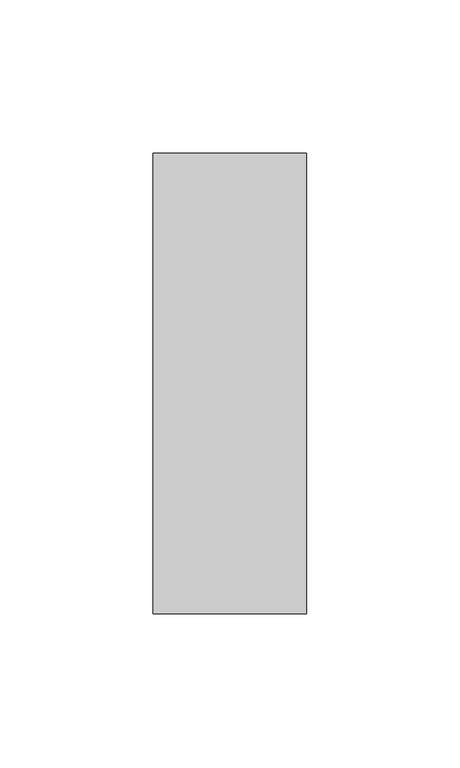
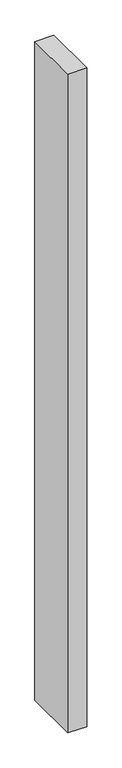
"""IFC4 building model written with IfcOpenShell, lengths in millimetres: member geometry, Прямоугольный импост : 50 x 150 мм."""

from ifc_helpers import new_model, si_unit, origin, place, context, project, spatial, faceted_brep, source, transform, mapped, element, save


def member_bd0e5d15(model_context):
    return source(origin(), model_context, "Body", "Brep", [
        faceted_brep([(-25.0, 75.0, -0.6714912), (25.0, 75.0, -0.0532358), (25.0, 75.0, -1835.7671636), (-25.0, 75.0, -1835.2736202), (-25.0, -75.0, 0.0532358), (-25.0, -75.0, -1835.0955304), (25.0, -75.0, 0.6714912), (25.0, -75.0, -1835.5890738)], [[[0, 1, 2, 3]], [[4, 0, 3, 5]], [[6, 4, 5, 7]], [[1, 6, 7, 2]], [[1, 0, 4, 6]], [[2, 7, 5, 3]]]),
    ])


if __name__ == "__main__":
    model = new_model("IFC4")
    model_context = context("Model", 3, world=origin())
    ifc_project = project(units=[si_unit("LENGTHUNIT", "METRE", prefix="MILLI")], contexts=[model_context])
    site = spatial("IfcSite", under=ifc_project)
    building = spatial("IfcBuilding", under=site)
    placement = place(None, origin())
    member_shape = member_bd0e5d15(model_context)
    element("IfcMember", 1, ObjectType="Прямоугольный импост : 50 x 150 мм", at=placement, inside=building, context=model_context, shape_type="MappedRepresentation", body=[
        mapped(member_shape, transform((0.0, 0.0, 0.0), x_axis=(1.0, 0.0, 0.0), y_axis=(0.0, 1.0, 0.0), z_axis=(0.0, 0.0, 1.0))),
    ])
    save(model, "model.ifc")
